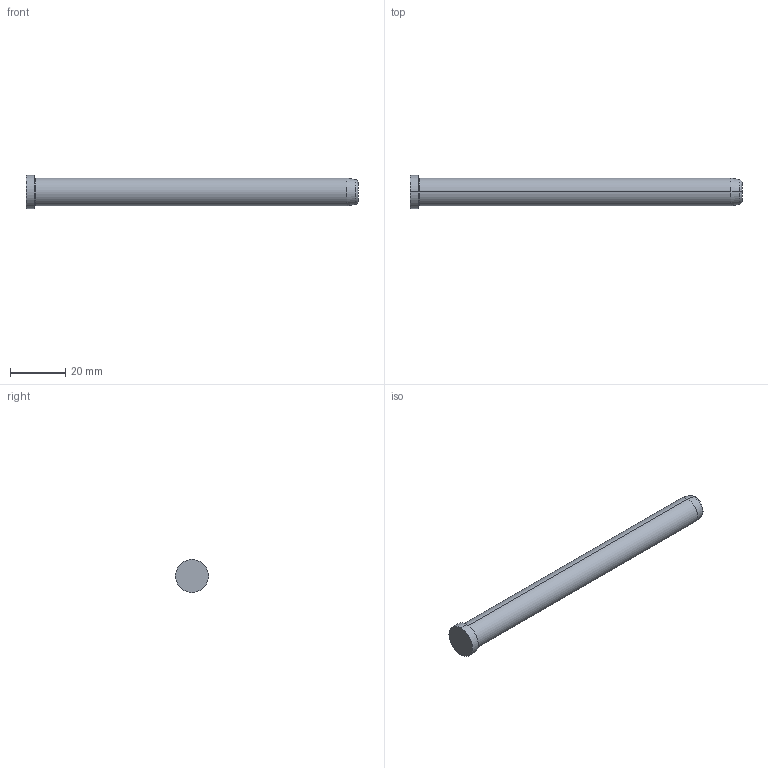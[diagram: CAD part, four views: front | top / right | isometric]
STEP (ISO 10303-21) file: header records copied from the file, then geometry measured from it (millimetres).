
FILE_DESCRIPTION( ( 'STEP AP203' ), '1' );
FILE_NAME( 'D:/Delta 3 D/D01D/10/D01D - 10x120.step', '2003-01-02T23:10:45', ( ' ' ), ( ' ' ), 'XStep 1.0', ' ', ' ' );
FILE_SCHEMA( ( 'CONFIG_CONTROL_DESIGN' ) );
Length unit declared in the file: metre
Products named in the file (1): 1
Bounding box: 120 x 12 x 12 mm (x, y, z)
Volume: 9478.7 mm3; surface area: 3993.9 mm2
Topology: 1 solids, 1 shells, 14 faces, 26 edges, 16 vertices
Faces by surface type: revolution 8, bspline 6
Entity records: 437 total; most frequent: CARTESIAN_POINT 121, ORIENTED_EDGE 52, DIRECTION 50, EDGE_CURVE 26, AXIS2_PLACEMENT_3D 17, EDGE_LOOP 16, VERTEX_POINT 16, CIRCLE 16
